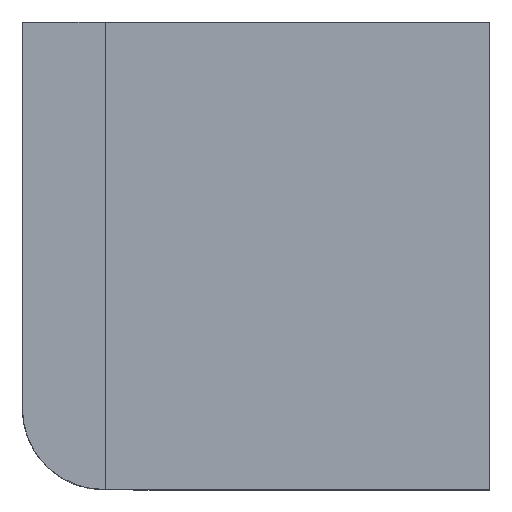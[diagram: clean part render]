
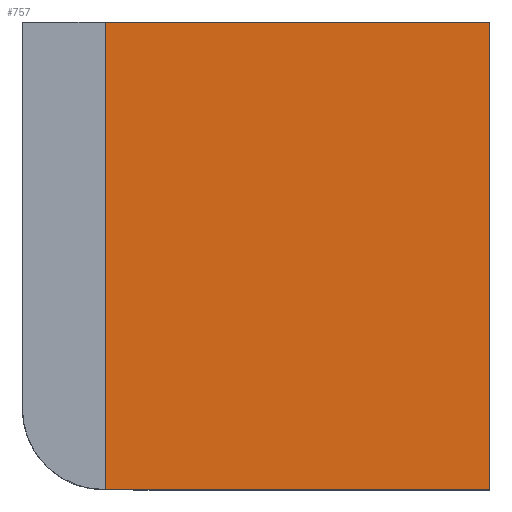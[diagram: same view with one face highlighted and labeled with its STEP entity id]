
A CAD part, top view. The second image highlights one B-rep face of the part: STEP entity #757.
In plain terms, the highlighted planar face has unit normal (0, 0, 1).
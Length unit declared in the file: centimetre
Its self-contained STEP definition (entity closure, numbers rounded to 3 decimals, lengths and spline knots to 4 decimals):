
#34 = VERTEX_POINT ( 'NONE', #701 ) ;
#58 = CARTESIAN_POINT ( 'NONE',  ( 1000., 0., 1000. ) ) ;
#60 = EDGE_CURVE ( 'NONE', #763, #102, #106, .T. ) ;
#100 = CARTESIAN_POINT ( 'NONE',  ( 1000., 1000., 1000. ) ) ;
#102 = VERTEX_POINT ( 'NONE', #697 ) ;
#106 = LINE ( 'NONE', #527, #490 ) ;
#131 = CARTESIAN_POINT ( 'NONE',  ( 0., 0., 1000. ) ) ;
#192 = DIRECTION ( 'NONE',  ( 0., 1., 0. ) ) ;
#229 = LINE ( 'NONE', #768, #586 ) ;
#234 = EDGE_CURVE ( 'NONE', #34, #306, #600, .T. ) ;
#246 = DIRECTION ( 'NONE',  ( 0., 1., 0. ) ) ;
#254 = LINE ( 'NONE', #265, #259 ) ;
#259 = VECTOR ( 'NONE', #192, 100. ) ;
#265 = CARTESIAN_POINT ( 'NONE',  ( 1000., 1000., 1000. ) ) ;
#304 = DIRECTION ( 'NONE',  ( 0., 0., 1. ) ) ;
#306 = VERTEX_POINT ( 'NONE', #58 ) ;
#361 = PLANE ( 'NONE',  #480 ) ;
#373 = CARTESIAN_POINT ( 'NONE',  ( 0., 0., 1000. ) ) ;
#399 = ORIENTED_EDGE ( 'NONE', *, *, #822, .T. ) ;
#407 = DIRECTION ( 'NONE',  ( 1., 0., 0. ) ) ;
#480 = AXIS2_PLACEMENT_3D ( 'NONE', #373, #304, #696 ) ;
#490 = VECTOR ( 'NONE', #506, 100. ) ;
#506 = DIRECTION ( 'NONE',  ( -1., 0., 0. ) ) ;
#527 = CARTESIAN_POINT ( 'NONE',  ( 0., 1000., 1000. ) ) ;
#584 = VECTOR ( 'NONE', #407, 100. ) ;
#586 = VECTOR ( 'NONE', #246, 100. ) ;
#600 = LINE ( 'NONE', #131, #584 ) ;
#613 = ORIENTED_EDGE ( 'NONE', *, *, #724, .F. ) ;
#696 = DIRECTION ( 'NONE',  ( 1., 0., 0. ) ) ;
#697 = CARTESIAN_POINT ( 'NONE',  ( 177.3976, 1000., 1000. ) ) ;
#701 = CARTESIAN_POINT ( 'NONE',  ( 177.3976, 0., 1000. ) ) ;
#724 = EDGE_CURVE ( 'NONE', #34, #102, #229, .T. ) ;
#755 = ORIENTED_EDGE ( 'NONE', *, *, #234, .T. ) ;
#757 = ADVANCED_FACE ( 'NONE', ( #831 ), #361, .T. ) ;
#763 = VERTEX_POINT ( 'NONE', #100 ) ;
#768 = CARTESIAN_POINT ( 'NONE',  ( 177.3976, 0., 1000. ) ) ;
#800 = EDGE_LOOP ( 'NONE', ( #613, #755, #399, #808 ) ) ;
#808 = ORIENTED_EDGE ( 'NONE', *, *, #60, .T. ) ;
#822 = EDGE_CURVE ( 'NONE', #306, #763, #254, .T. ) ;
#831 = FACE_OUTER_BOUND ( 'NONE', #800, .T. ) ;
